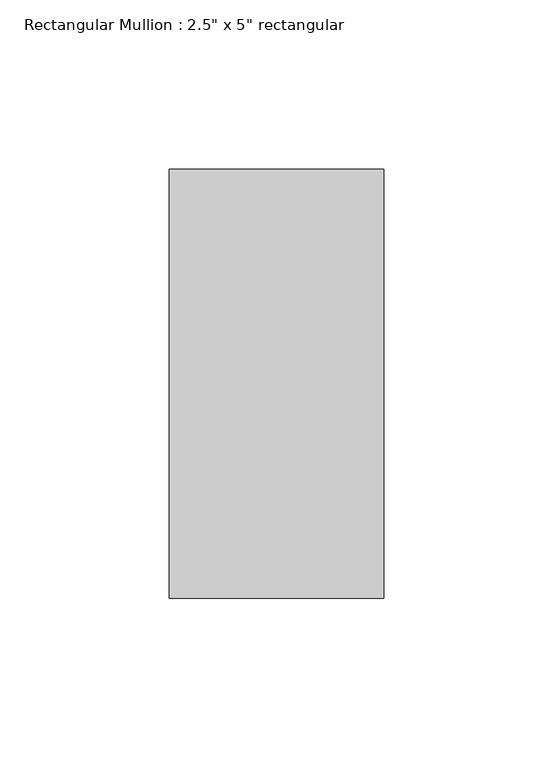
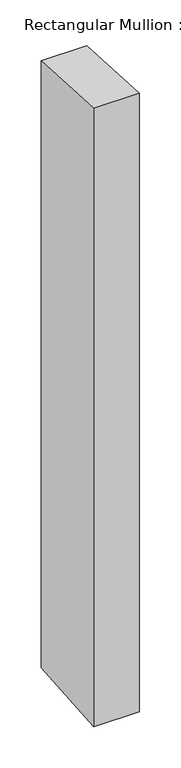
"""IFC4 building model written with IfcOpenShell, lengths in millimetres: member geometry."""

from ifc_helpers import new_model, si_unit, frame, origin, place, context, project, spatial, polyline, outline, extrude, source, transform, mapped, element, save


def member_110634b6(model_context):
    return source(origin(), model_context, "Body", "SweptSolid", [
        extrude(outline(polyline([(-63.5, 3.362845), (63.5, -3.362845), (63.5, -900.0384732), (-63.5, -910.1388071), (-63.5, 3.362845)])), frame((-63.5, 0.0, 0.0), z_axis=(1.0, 0.0, 0.0), x_axis=(0.0, 1.0, 0.0)), (0.0, 0.0, 1.0), 63.5),
    ])


if __name__ == "__main__":
    model = new_model("IFC4")
    model_context = context("Model", 3, world=origin())
    ifc_project = project(units=[si_unit("LENGTHUNIT", "METRE", prefix="MILLI")], contexts=[model_context])
    site = spatial("IfcSite", under=ifc_project)
    building = spatial("IfcBuilding", under=site)
    placement = place(None, origin())
    member_shape = member_110634b6(model_context)
    element("IfcMember", 1, ObjectType="Rectangular Mullion : 2.5\" x 5\" rectangular", at=placement, inside=building, context=model_context, shape_type="MappedRepresentation", body=[
        mapped(member_shape, transform((0.0, 0.0, 0.0), x_axis=(1.0, 0.0, 0.0), y_axis=(0.0, 1.0, 0.0), z_axis=(0.0, 0.0, 1.0))),
    ])
    save(model, "model.ifc")
